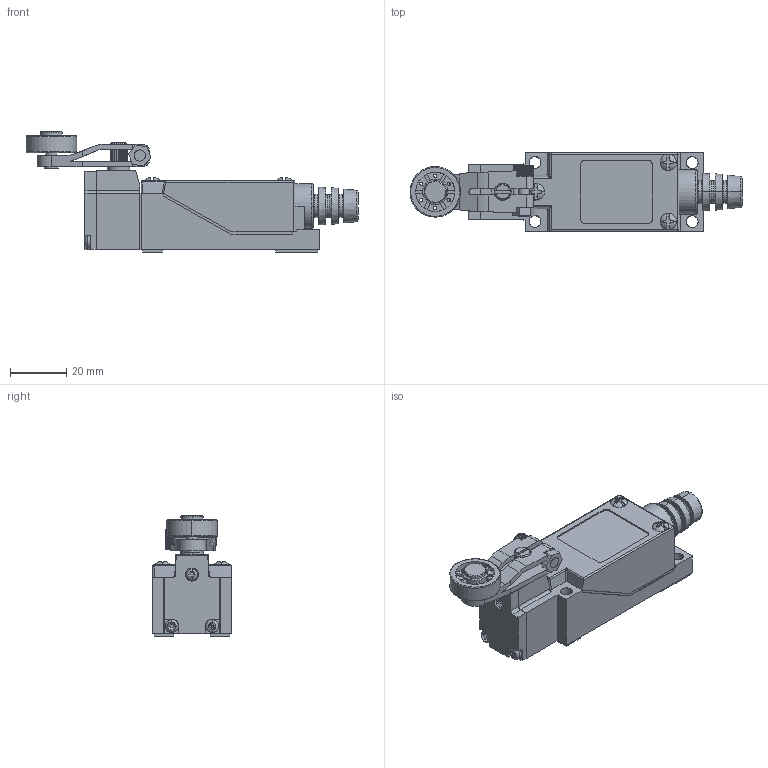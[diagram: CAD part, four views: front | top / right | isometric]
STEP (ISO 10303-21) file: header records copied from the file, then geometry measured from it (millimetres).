
FILE_DESCRIPTION(('STEP AP203'), '1');
FILE_NAME('Korpus-9.stp', '2014-07-04T10:03:44', ('UNSPECIFIED'), ('UNSPECIFIED'), 'ASCON STEP Converter 1.0', 'Kompas 3D', '');
FILE_SCHEMA(('CONFIG_CONTROL_DESIGN'));
Length unit declared in the file: millimetre
Bounding box: 118.25 x 28 x 43 mm (x, y, z)
Surface area: 16309.8 mm2 (no closed solid volume)
Topology: 0 solids, 1 shells, 715 faces, 1989 edges, 1290 vertices
Faces by surface type: plane 488, cylinder 168, torus 26, cone 20, sphere 11, bspline 2
Full cylindrical faces by diameter (mm): 16 x1
Entity records: 23091 total; most frequent: CARTESIAN_POINT 5715, ORIENTED_EDGE 3953, DIRECTION 3209, EDGE_CURVE 1978, LINE 1333, VECTOR 1333, VERTEX_POINT 1288, AXIS2_PLACEMENT_3D 938
